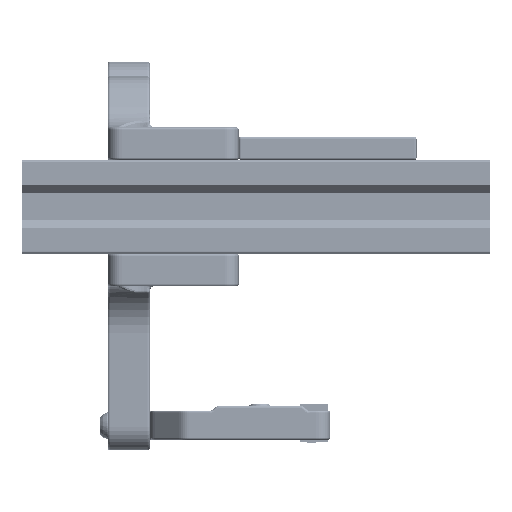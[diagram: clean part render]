
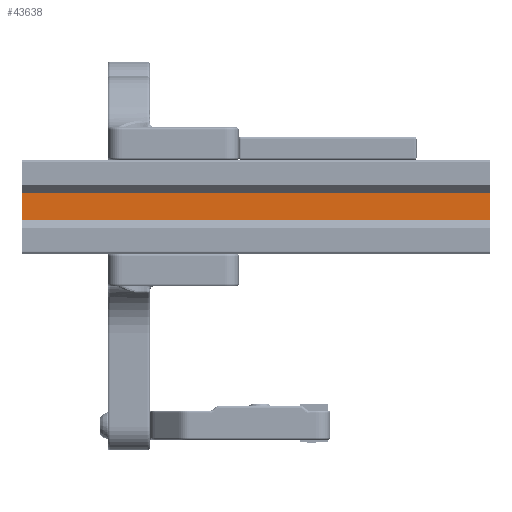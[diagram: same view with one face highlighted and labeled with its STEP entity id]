
A CAD part, front view. The second image highlights one B-rep face of the part: STEP entity #43638.
In plain terms, the highlighted planar face has unit normal (0, -1, 0).
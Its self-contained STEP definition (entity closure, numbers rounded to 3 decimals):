
#3514=PLANE('',#46762);
#4178=FACE_OUTER_BOUND('',#6929,.T.);
#6929=EDGE_LOOP('',(#28935,#28936,#28937,#28938));
#9783=LINE('',#62895,#12592);
#9903=LINE('',#63146,#12712);
#9904=LINE('',#63149,#12713);
#9905=LINE('',#63150,#12714);
#12592=VECTOR('',#51185,10.);
#12712=VECTOR('',#51423,10.);
#12713=VECTOR('',#51426,10.);
#12714=VECTOR('',#51427,10.);
#17473=VERTEX_POINT('',#62892);
#17474=VERTEX_POINT('',#62894);
#17546=VERTEX_POINT('',#63144);
#17547=VERTEX_POINT('',#63148);
#21775=EDGE_CURVE('',#17473,#17474,#9783,.T.);
#21901=EDGE_CURVE('',#17473,#17546,#9903,.T.);
#21902=EDGE_CURVE('',#17547,#17546,#9904,.F.);
#21903=EDGE_CURVE('',#17474,#17547,#9905,.T.);
#28935=ORIENTED_EDGE('',*,*,#21775,.F.);
#28936=ORIENTED_EDGE('',*,*,#21901,.T.);
#28937=ORIENTED_EDGE('',*,*,#21902,.F.);
#28938=ORIENTED_EDGE('',*,*,#21903,.F.);
#43638=ADVANCED_FACE('',(#4178),#3514,.T.);
#46762=AXIS2_PLACEMENT_3D('',#63147,#51424,#51425);
#51185=DIRECTION('',(0.,0.,1.));
#51423=DIRECTION('',(1.,0.,0.));
#51424=DIRECTION('center_axis',(0.,-1.,0.));
#51425=DIRECTION('ref_axis',(0.,0.,
-1.));
#51426=DIRECTION('',(0.,0.,1.));
#51427=DIRECTION('',(1.,0.,0.));
#62892=CARTESIAN_POINT('',(-47.5,24.913,-7.845));
#62894=CARTESIAN_POINT('',(-47.5,24.913,-2.155));
#62895=CARTESIAN_POINT('',(-47.5,24.913,-3.577));
#63144=CARTESIAN_POINT('',(52.5,24.913,-7.845));
#63146=CARTESIAN_POINT('',(-97.5,24.913,-7.845));
#63147=CARTESIAN_POINT('Origin',(-97.5,24.913,-2.155));
#63148=CARTESIAN_POINT('',(52.5,24.913,-2.155));
#63149=CARTESIAN_POINT('',(52.5,24.913,-3.578));
#63150=CARTESIAN_POINT('',(-97.5,24.913,-2.155));
